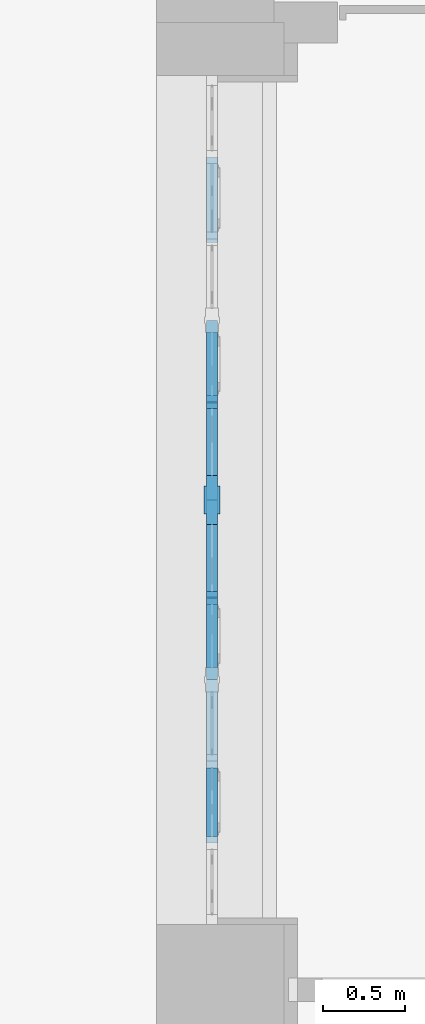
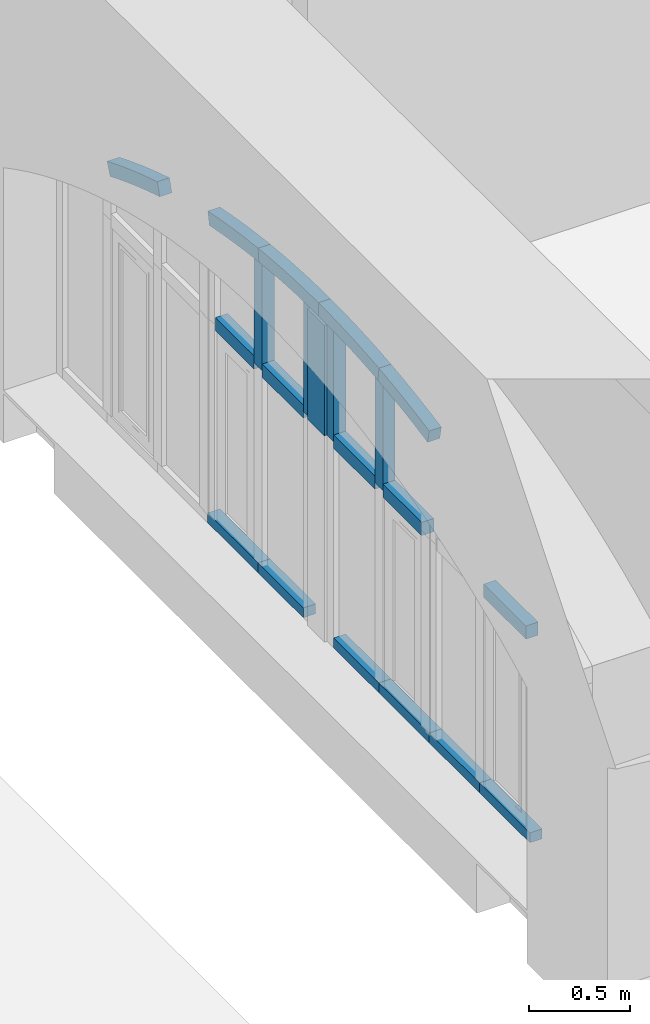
# One storey, part 30 of 88: 19 members, 1 element without a shape of its own.
"""IFC2X3 building model written with IfcOpenShell, lengths in millimetres."""

from ifc_helpers import new_model, entity, si_unit, converted_unit, derived_unit, direction, frame, frame_2d, origin, place, context, subcontext, project, spatial, polyline, circle_curve, parameter, trimmed, segment, composite_curve, rectangle, outline, extrude, faceted_brep, source, transform, mapped, material, type_object, type_shapes, element, aggregate, save


model = new_model("IFC2X3")

# Units and contexts
model_context = context("Model", 3, precision=0.01, world=origin(), true_north=direction((6.123031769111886e-17, 1.0)))
body_context = subcontext(model_context, "Body", "Model", "MODEL_VIEW")
ifc_project = project(units=[si_unit("LENGTHUNIT", "METRE", prefix="MILLI"), si_unit("AREAUNIT", "SQUARE_METRE"), si_unit("VOLUMEUNIT", "CUBIC_METRE"), converted_unit("PLANEANGLEUNIT", "DEGREE", entity("IfcPlaneAngleMeasure", 0.017453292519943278), si_unit("PLANEANGLEUNIT", "RADIAN"), dimensions=[0, 0, 0, 0, 0, 0, 0]), si_unit("MASSUNIT", "GRAM", prefix="KILO"), derived_unit("MASSDENSITYUNIT", [(si_unit("MASSUNIT", "GRAM", prefix="KILO"), 1), (si_unit("LENGTHUNIT", "METRE"), -3)]), derived_unit("IONCONCENTRATIONUNIT", [(si_unit("MASSUNIT", "GRAM", prefix="KILO"), 1), (si_unit("LENGTHUNIT", "METRE"), -3)]), derived_unit("MOMENTOFINERTIAUNIT", [(si_unit("LENGTHUNIT", "METRE"), 4)]), si_unit("TIMEUNIT", "SECOND"), si_unit("FREQUENCYUNIT", "HERTZ"), si_unit("THERMODYNAMICTEMPERATUREUNIT", "DEGREE_CELSIUS"), derived_unit("THERMALTRANSMITTANCEUNIT", [(si_unit("MASSUNIT", "GRAM", prefix="KILO"), 1), (si_unit("THERMODYNAMICTEMPERATUREUNIT", "KELVIN"), -1), (si_unit("TIMEUNIT", "SECOND"), -3)]), derived_unit("THERMALCONDUCTANCEUNIT", [(si_unit("MASSUNIT", "GRAM", prefix="KILO"), 1), (si_unit("THERMODYNAMICTEMPERATUREUNIT", "KELVIN"), -1), (si_unit("TIMEUNIT", "SECOND"), -3), (si_unit("LENGTHUNIT", "METRE"), 1)]), derived_unit("VOLUMETRICFLOWRATEUNIT", [(si_unit("LENGTHUNIT", "METRE", prefix="DECI"), 3), (si_unit("TIMEUNIT", "SECOND"), -1)]), derived_unit("MASSFLOWRATEUNIT", [(si_unit("MASSUNIT", "GRAM", prefix="KILO"), 1), (si_unit("TIMEUNIT", "SECOND"), -1)]), derived_unit("ROTATIONALFREQUENCYUNIT", [(si_unit("TIMEUNIT", "SECOND"), -1)]), si_unit("ELECTRICCURRENTUNIT", "AMPERE"), si_unit("ELECTRICVOLTAGEUNIT", "VOLT"), si_unit("POWERUNIT", "WATT"), si_unit("FORCEUNIT", "NEWTON", prefix="KILO"), si_unit("ILLUMINANCEUNIT", "LUX"), si_unit("LUMINOUSFLUXUNIT", "LUMEN"), si_unit("LUMINOUSINTENSITYUNIT", "CANDELA"), si_unit("ENERGYUNIT", "JOULE"), derived_unit("USERDEFINED", [(si_unit("MASSUNIT", "GRAM", prefix="KILO"), -1), (si_unit("LENGTHUNIT", "METRE"), -2), (si_unit("TIMEUNIT", "SECOND"), 3), (si_unit("LUMINOUSFLUXUNIT", "LUMEN"), 1)]), derived_unit("USERDEFINED", [(si_unit("MASSUNIT", "GRAM", prefix="KILO"), 1), (si_unit("TIMEUNIT", "SECOND"), -3), (si_unit("LENGTHUNIT", "METRE"), 3), (si_unit("ELECTRICCURRENTUNIT", "AMPERE"), -2)]), derived_unit("SOUNDPOWERUNIT", [(si_unit("MASSUNIT", "GRAM", prefix="KILO"), 1), (si_unit("TIMEUNIT", "SECOND"), -3), (si_unit("LENGTHUNIT", "METRE"), 2)]), derived_unit("SOUNDPRESSUREUNIT", [(si_unit("MASSUNIT", "GRAM", prefix="KILO"), 1), (si_unit("LENGTHUNIT", "METRE"), -1), (si_unit("TIMEUNIT", "SECOND"), -2)]), derived_unit("LINEARVELOCITYUNIT", [(si_unit("LENGTHUNIT", "METRE"), 1), (si_unit("TIMEUNIT", "SECOND"), -1)]), si_unit("PRESSUREUNIT", "PASCAL"), derived_unit("USERDEFINED", [(si_unit("MASSUNIT", "GRAM", prefix="KILO"), 1), (si_unit("LENGTHUNIT", "METRE"), -2), (si_unit("TIMEUNIT", "SECOND"), -2)]), derived_unit("LINEARFORCEUNIT", [(si_unit("MASSUNIT", "GRAM", prefix="KILO"), 1), (si_unit("TIMEUNIT", "SECOND"), -2)]), derived_unit("PLANARFORCEUNIT", [(si_unit("MASSUNIT", "GRAM", prefix="KILO"), 1), (si_unit("LENGTHUNIT", "METRE"), -1), (si_unit("TIMEUNIT", "SECOND"), -2)]), derived_unit("SPECIFICHEATCAPACITYUNIT", [(si_unit("THERMODYNAMICTEMPERATUREUNIT", "KELVIN"), -1), (si_unit("LENGTHUNIT", "METRE"), 2), (si_unit("TIMEUNIT", "SECOND"), -2)]), derived_unit("HEATFLUXDENSITYUNIT", [(si_unit("MASSUNIT", "GRAM", prefix="KILO"), 1), (si_unit("TIMEUNIT", "SECOND"), -3)]), derived_unit("HEATINGVALUEUNIT", [(si_unit("LENGTHUNIT", "METRE"), 2), (si_unit("TIMEUNIT", "SECOND"), -2)]), derived_unit("VAPORPERMEABILITYUNIT", [(si_unit("LENGTHUNIT", "METRE"), -1), (si_unit("TIMEUNIT", "SECOND"), 1)]), derived_unit("DYNAMICVISCOSITYUNIT", [(si_unit("MASSUNIT", "GRAM", prefix="KILO"), 1), (si_unit("TIMEUNIT", "SECOND"), -1), (si_unit("LENGTHUNIT", "METRE"), -1)]), derived_unit("THERMALEXPANSIONCOEFFICIENTUNIT", [(si_unit("THERMODYNAMICTEMPERATUREUNIT", "KELVIN"), -1)]), derived_unit("MODULUSOFELASTICITYUNIT", [(si_unit("MASSUNIT", "GRAM", prefix="KILO"), 1), (si_unit("LENGTHUNIT", "METRE"), -1), (si_unit("TIMEUNIT", "SECOND"), -2)]), derived_unit("ISOTHERMALMOISTURECAPACITYUNIT", [(si_unit("MASSUNIT", "GRAM", prefix="KILO"), -1), (si_unit("LENGTHUNIT", "METRE"), 3)]), derived_unit("MOISTUREDIFFUSIVITYUNIT", [(si_unit("TIMEUNIT", "SECOND"), -1), (si_unit("LENGTHUNIT", "METRE"), 2)]), derived_unit("MASSPERLENGTHUNIT", [(si_unit("MASSUNIT", "GRAM", prefix="KILO"), 1), (si_unit("LENGTHUNIT", "METRE"), -1)]), derived_unit("THERMALRESISTANCEUNIT", [(si_unit("MASSUNIT", "GRAM", prefix="KILO"), -1), (si_unit("TIMEUNIT", "SECOND"), 3), (si_unit("THERMODYNAMICTEMPERATUREUNIT", "KELVIN"), 1)]), derived_unit("ACCELERATIONUNIT", [(si_unit("LENGTHUNIT", "METRE"), 1), (si_unit("TIMEUNIT", "SECOND"), -2)]), derived_unit("ANGULARVELOCITYUNIT", [(si_unit("TIMEUNIT", "SECOND"), -1), (si_unit("PLANEANGLEUNIT", "RADIAN"), 1)]), derived_unit("LINEARSTIFFNESSUNIT", [(si_unit("MASSUNIT", "GRAM", prefix="KILO"), 1), (si_unit("TIMEUNIT", "SECOND"), -2)]), derived_unit("WARPINGCONSTANTUNIT", [(si_unit("LENGTHUNIT", "METRE"), 6)]), derived_unit("LINEARMOMENTUNIT", [(si_unit("MASSUNIT", "GRAM", prefix="KILO"), 1), (si_unit("LENGTHUNIT", "METRE"), 1), (si_unit("TIMEUNIT", "SECOND"), -2)]), derived_unit("TORQUEUNIT", [(si_unit("MASSUNIT", "GRAM", prefix="KILO"), 1), (si_unit("LENGTHUNIT", "METRE"), 2), (si_unit("TIMEUNIT", "SECOND"), -2)])], contexts=[model_context])

# Site, building, storey
site_placement = place(None, origin())
site = spatial("IfcSite", under=ifc_project, at=site_placement, Name="Default", CompositionType="ELEMENT")
building_placement = place(site_placement, origin())
building = spatial("IfcBuilding", under=site, at=building_placement, Name="Eesti Rahvusraamatukogu hoone renoveerimise projekteerimistööd", CompositionType="ELEMENT")
storey_placement = place(building_placement, origin())
storey = spatial("IfcBuildingStorey", under=building, at=storey_placement, Name="1. korrus", CompositionType="ELEMENT", Elevation=0.0)

# Curtain wall, members
curtain_wall_type = type_object("IfcCurtainWallType", Name="Curtain Wall:Ak-02", PredefinedType="NOTDEFINED")
curtain_wall_placement = place(storey_placement, origin())
curtain_wall = element("IfcCurtainWall", 1, at=curtain_wall_placement, inside=storey, type_object=curtain_wall_type, Name="Curtain Wall:Ak-02", ObjectType="Curtain Wall:Ak-02")
ifc_material = material(Name="LUMION_dark steel window frames")
member_type_1 = type_object("IfcMemberType", Name="Rectangular Mullion:NEW 80x70mm", PredefinedType="MULLION", material=ifc_material)
shared_shape_1 = source(origin(), body_context, "Body", "SweptSolid", [
    extrude(outline(composite_curve([segment(polyline([(-52.664386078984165, -263.1530214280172), (27.33561392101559, -263.1530214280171)]), True, "CONTINUOUS"), segment(trimmed(circle_curve(frame_2d((5468.051293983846, -263.1530214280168), x_axis=(-0.9953785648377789, 0.09602870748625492)), 5440.715680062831), [parameter(3.5622212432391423e-13)], [parameter(5.510531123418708)], True, "PARAMETER"), False, "CONTINUOUS"), segment(polyline([(52.479528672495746, 259.31187312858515), (-27.150756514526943, 266.9941697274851)]), True, "CONTINUOUS"), segment(trimmed(circle_curve(frame_2d((5468.051293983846, -263.1530214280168), x_axis=(-0.9953785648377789, 0.09602870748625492)), 5520.715680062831), [parameter(3.5622212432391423e-13)], [parameter(5.510531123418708)], True, "PARAMETER"), True, "CONTINUOUS")], self_intersect=False)), frame((-52.66438607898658, -35.0, -263.1530214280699), z_axis=(0.0, 1.0, 0.0), x_axis=(-0.9953785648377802, 0.0, 0.09602870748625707)), (0.0, 0.0, 1.0), 69.99999999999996),
])
type_shapes(member_type_1, [shared_shape_1])
member_1_placement = place(curtain_wall_placement, frame((-36440.0, 22990.0, 3733.633310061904), z_axis=(0.0, -0.9570819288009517, 0.2898174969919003), x_axis=(0.0, 0.2898174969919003, 0.9570819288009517)))
member_1 = element("IfcMember", 2, at=member_1_placement, type_object=member_type_1, material=ifc_material, Name="Rectangular Mullion:NEW 80x70mm", ObjectType="Rectangular Mullion:NEW 80x70mm", context=body_context, shape_type="MappedRepresentation", body=[
    mapped(shared_shape_1, transform((0.0, 0.0, 0.0), scale=1.0)),
])
member_type_2 = type_object("IfcMemberType", Name="Rectangular Mullion:NEW 80x70mm", PredefinedType="MULLION", material=ifc_material)
shared_shape_2 = source(origin(), body_context, "Body", "SweptSolid", [
    extrude(outline(composite_curve([segment(polyline([(-51.51245202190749, -250.9261639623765), (28.487547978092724, -250.92616396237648)]), True, "CONTINUOUS"), segment(trimmed(circle_curve(frame_2d((5469.203228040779, -250.92616396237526), x_axis=(-0.99579892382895, 0.0915669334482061)), 5440.715680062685), [parameter(3.5622212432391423e-13)], [parameter(5.2537580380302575)], True, "PARAMETER"), False, "CONTINUOUS"), segment(polyline([(51.344408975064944, 247.26348662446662), (-28.319504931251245, 254.58884130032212)]), True, "CONTINUOUS"), segment(trimmed(circle_curve(frame_2d((5469.203228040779, -250.92616396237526), x_axis=(-0.99579892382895, 0.0915669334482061)), 5520.715680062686), [parameter(3.5622212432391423e-13)], [parameter(5.2537580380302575)], True, "PARAMETER"), True, "CONTINUOUS")], self_intersect=False)), frame((-51.51245202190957, -35.0, -250.92616396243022), z_axis=(0.0, 1.0, 0.0), x_axis=(-0.995798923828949, 0.0, 0.09156693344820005)), (0.0, 0.0, 1.0), 70.00000000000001),
])
type_shapes(member_type_2, [shared_shape_2])
member_2_placement = place(curtain_wall_placement, frame((-36440.0, 21990.0, 3937.870459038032), z_axis=(0.0, -0.9940766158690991, 0.10868156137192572), x_axis=(0.0, 0.10868156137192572, 0.9940766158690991)))
member_2 = element("IfcMember", 3, at=member_2_placement, type_object=member_type_2, material=ifc_material, Name="Rectangular Mullion:NEW 80x70mm", ObjectType="Rectangular Mullion:NEW 80x70mm", context=body_context, shape_type="MappedRepresentation", body=[
    mapped(shared_shape_2, transform((0.0, 0.0, 0.0), scale=1.0)),
])
member_type_3 = type_object("IfcMemberType", Name="Rectangular Mullion:NEW 80x70mm", PredefinedType="MULLION", material=ifc_material)
shared_shape_3 = source(origin(), body_context, "Body", "SweptSolid", [
    extrude(outline(composite_curve([segment(polyline([(-56.23219214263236, -297.82636877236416), (23.767807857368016, -297.82636877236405)]), True, "CONTINUOUS"), segment(trimmed(circle_curve(frame_2d((5464.483487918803, -297.82636877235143), x_axis=(-0.9940766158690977, 0.10868156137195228)), 5440.715680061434), [parameter(3.053332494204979e-13)], [parameter(6.2393189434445)], True, "PARAMETER"), False, "CONTINUOUS"), segment(polyline([(55.99525677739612, 293.47910631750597), (-23.53087249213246, 302.1736312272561)]), True, "CONTINUOUS"), segment(trimmed(circle_curve(frame_2d((5464.483487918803, -297.82636877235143), x_axis=(-0.9940766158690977, 0.10868156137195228)), 5520.715680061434), [parameter(3.5622212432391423e-13)], [parameter(6.2393189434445)], True, "PARAMETER"), True, "CONTINUOUS")], self_intersect=False)), frame((-56.23219214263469, -35.0, -297.82636877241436), z_axis=(0.0, 1.0, 0.0), x_axis=(-0.9940766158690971, 0.0, 0.10868156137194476)), (0.0, 0.0, 1.0), 69.99999999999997),
])
type_shapes(member_type_3, [shared_shape_3])
member_3_placement = place(curtain_wall_placement, frame((-36440.0, 20790.0, 3937.870459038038), z_axis=(0.0, -0.9940766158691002, -0.10868156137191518), x_axis=(0.0, -0.10868156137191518, 0.9940766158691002)))
member_3 = element("IfcMember", 4, at=member_3_placement, type_object=member_type_3, material=ifc_material, Name="Rectangular Mullion:NEW 80x70mm", ObjectType="Rectangular Mullion:NEW 80x70mm", context=body_context, shape_type="MappedRepresentation", body=[
    mapped(shared_shape_3, transform((0.0, 0.0, 0.0), scale=1.0)),
])
member_type_4 = type_object("IfcMemberType", Name="Rectangular Mullion:NEW 80x70mm", PredefinedType="MULLION", material=ifc_material)
shared_shape_4 = source(origin(), body_context, "Body", "SweptSolid", [
    extrude(outline(composite_curve([segment(polyline([(-51.51245202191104, -250.9261639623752), (28.487547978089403, -250.92616396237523)]), True, "CONTINUOUS"), segment(trimmed(circle_curve(frame_2d((5469.203228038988, -250.9261639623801), x_axis=(-0.9957989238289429, 0.09156693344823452)), 5440.715680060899), [parameter(3.5622212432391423e-13)], [parameter(5.253758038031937)], True, "PARAMETER"), False, "CONTINUOUS"), segment(polyline([(51.34440897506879, 247.26348662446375), (-28.319504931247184, 254.5888413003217)]), True, "CONTINUOUS"), segment(trimmed(circle_curve(frame_2d((5469.203228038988, -250.9261639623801), x_axis=(-0.9957989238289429, 0.09156693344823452)), 5520.715680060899), [parameter(3.5622212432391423e-13)], [parameter(5.253758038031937)], True, "PARAMETER"), True, "CONTINUOUS")], self_intersect=False)), frame((-51.512452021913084, -35.0, -250.926163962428), z_axis=(0.0, 1.0, 0.0), x_axis=(-0.9957989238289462, 0.0, 0.09156693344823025)), (0.0, 0.0, 1.0), 70.00000000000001),
])
type_shapes(member_type_4, [shared_shape_4])
member_4_placement = place(curtain_wall_placement, frame((-36440.0, 20290.0, 3859.874732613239), z_axis=(0.0, -0.9799487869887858, -0.1992495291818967), x_axis=(0.0, -0.1992495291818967, 0.9799487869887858)))
member_4 = element("IfcMember", 5, at=member_4_placement, type_object=member_type_4, material=ifc_material, Name="Rectangular Mullion:NEW 80x70mm", ObjectType="Rectangular Mullion:NEW 80x70mm", context=body_context, shape_type="MappedRepresentation", body=[
    mapped(shared_shape_4, transform((0.0, 0.0, 0.0), scale=1.0)),
])
member_type_5 = type_object("IfcMemberType", Name="Rectangular Mullion:NEW 80x70mm", PredefinedType="MULLION", material=ifc_material)
shared_shape_5 = source(origin(), body_context, "Body", "SweptSolid", [
    extrude(outline(composite_curve([segment(polyline([(-56.232192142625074, -297.82636877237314), (23.767807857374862, -297.82636877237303)]), True, "CONTINUOUS"), segment(trimmed(circle_curve(frame_2d((5464.483487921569, -297.8263687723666), x_axis=(-0.9940766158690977, 0.10868156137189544)), 5440.715680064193), [parameter(3.5622212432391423e-13)], [parameter(6.239318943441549)], True, "PARAMETER"), False, "CONTINUOUS"), segment(polyline([(55.99525677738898, 293.47910631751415), (-23.53087249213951, 302.1736312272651)]), True, "CONTINUOUS"), segment(trimmed(circle_curve(frame_2d((5464.483487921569, -297.8263687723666), x_axis=(-0.9940766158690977, 0.10868156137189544)), 5520.715680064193), [parameter(3.5622212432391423e-13)], [parameter(6.239318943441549)], True, "PARAMETER"), True, "CONTINUOUS")], self_intersect=False)), frame((-56.232192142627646, -35.0, -297.8263687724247), z_axis=(0.0, 1.0, 0.0), x_axis=(-0.9940766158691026, 0.0, 0.1086815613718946)), (0.0, 0.0, 1.0), 69.99999999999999),
])
type_shapes(member_type_5, [shared_shape_5])
member_5_placement = place(curtain_wall_placement, frame((-36440.0, 21390.0, 3970.571778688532), z_axis=(0.0, -1.0, 0.0), x_axis=(0.0, 0.0, 1.0)))
member_5 = element("IfcMember", 6, at=member_5_placement, type_object=member_type_5, material=ifc_material, Name="Rectangular Mullion:NEW 80x70mm", ObjectType="Rectangular Mullion:NEW 80x70mm", context=body_context, shape_type="MappedRepresentation", body=[
    mapped(shared_shape_5, transform((0.0, 0.0, 0.0), scale=1.0)),
])
member_type_6 = type_object("IfcMemberType", Name="Rectangular Mullion:NEW 80x70mm", PredefinedType="MULLION", material=ifc_material)
shared_shape_6 = source(origin(), body_context, "Body", "SweptSolid", [
    extrude(outline(composite_curve([segment(polyline([(-382.563636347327, -38.261095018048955), (259.11166761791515, -38.261095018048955)]), True, "CONTINUOUS"), segment(trimmed(circle_curve(frame_2d((-5152.707537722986, -598.2610950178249), x_axis=(1.0, 0.0)), 5440.715680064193), [parameter(5.907781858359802)], [parameter(6.239318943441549)], True, "PARAMETER"), True, "CONTINUOUS"), segment(trimmed(circle_curve(frame_2d((-5152.707537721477, -598.2610950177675), x_axis=(0.994076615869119, 0.10868156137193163)), 5440.715680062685), [parameter(0.0)], [parameter(0.5161152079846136)], True, "PARAMETER"), True, "CONTINUOUS"), segment(polyline([(250.23491165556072, 41.73890498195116), (-382.563636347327, 41.738904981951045)]), True, "CONTINUOUS"), segment(polyline([(-382.563636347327, 41.738904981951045), (-382.563636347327, -38.261095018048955)]), True, "CONTINUOUS")], self_intersect=False)), frame((1.7389049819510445, -35.0, -382.563636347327), z_axis=(0.0, 1.0, 0.0), x_axis=(0.0, 0.0, -1.0)), (0.0, 0.0, 1.0), 69.99999999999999),
])
type_shapes(member_type_6, [shared_shape_6])
member_6_placement = place(curtain_wall_placement, frame((-36440.0, 21990.0, 3220.0), z_axis=(0.0, 0.0, -1.0), x_axis=(0.0, -1.0, 0.0)))
member_6 = element("IfcMember", 7, at=member_6_placement, type_object=member_type_6, material=ifc_material, Name="Rectangular Mullion:NEW 80x70mm", ObjectType="Rectangular Mullion:NEW 80x70mm", context=body_context, shape_type="MappedRepresentation", body=[
    mapped(shared_shape_6, transform((0.0, 0.0, 0.0), scale=1.0)),
])
member_type_7 = type_object("IfcMemberType", Name="Rectangular Mullion:NEW 300x100mm", PredefinedType="MULLION", material=ifc_material)
shared_shape_7 = source(origin(), body_context, "Body", "Brep", [
    faceted_brep([(-85.0, -50.0, 0.0), (85.0, -50.0, 0.0), (85.0, -35.0, 0.0), (150.0, -35.0, 0.0), (150.0, 35.0, 0.0), (85.0, 35.0, 0.0), (85.0, 50.0, 0.0), (-85.0, 50.0, 0.0), (-85.0, 35.0, 0.0), (-150.0, 35.0, 0.0), (-150.0, -35.0, 0.0), (-85.0, -35.0, 0.0), (-85.0, 35.0, -669.9077630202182), (-117.50209737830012, 35.0, -669.3027955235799), (-150.0, 35.0, -668.5036429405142), (150.0, 35.0, -668.5036429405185), (117.50209737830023, 35.0, -669.3027955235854), (85.0, 35.0, -669.9077630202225), (-150.0, -35.0, -668.5036429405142), (-117.5020973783, -35.0, -669.3027955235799), (-85.0, -35.0, -669.9077630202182), (85.0, -35.0, -669.9077630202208), (117.50209737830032, -35.0, -669.3027955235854), (150.0, -35.0, -668.5036429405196), (-85.0, -50.0, -669.9077630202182), (-85.0, 50.0, -669.9077630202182), (-42.50064842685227, -50.0, -670.4057773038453), (0.0, -50.0, -670.5717786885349), (42.500648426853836, -50.0, -670.4057773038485), (85.0, -50.0, -669.9077630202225), (85.0, 50.0, -669.9077630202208), (42.500648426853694, 50.0, -670.4057773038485), (0.0, 50.0, -670.5717786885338), (-42.50064842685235, 50.0, -670.4057773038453)], [[[0, 1, 2, 3, 4, 5, 6, 7, 8, 9, 10, 11]], [[9, 8, 12, 13, 14]], [[5, 4, 15, 16, 17]], [[10, 9, 14, 18]], [[11, 10, 18, 19, 20]], [[3, 2, 21, 22, 23]], [[0, 11, 20, 24]], [[8, 7, 25, 12]], [[1, 0, 24, 26, 27, 28, 29]], [[2, 1, 29, 21]], [[6, 5, 17, 30]], [[4, 3, 23, 15]], [[7, 6, 30, 31, 32, 33, 25]], [[33, 32, 27, 26]], [[20, 12, 25, 33, 26, 24]], [[20, 19, 13, 12]], [[19, 18, 14, 13]], [[15, 23, 22, 16]], [[16, 22, 21, 17]], [[21, 29, 28, 31, 30, 17]], [[31, 28, 27, 32]]]),
])
type_shapes(member_type_7, [shared_shape_7])
member_7_placement = place(curtain_wall_placement, frame((-36440.0, 21390.0, 3220.0), z_axis=(0.0, 0.0, -1.0), x_axis=(0.0, -1.0, 0.0)))
member_7 = element("IfcMember", 8, at=member_7_placement, type_object=member_type_7, material=ifc_material, Name="Rectangular Mullion:NEW 300x100mm", ObjectType="Rectangular Mullion:NEW 300x100mm", context=body_context, shape_type="MappedRepresentation", body=[
    mapped(shared_shape_7, transform((0.0, 0.0, 0.0), scale=1.0)),
])
member_type_8 = type_object("IfcMemberType", Name="Rectangular Mullion:NEW 80x70mm", PredefinedType="MULLION", material=ifc_material)
shared_shape_8 = source(origin(), body_context, "Body", "SweptSolid", [
    extrude(outline(composite_curve([segment(polyline([(-382.56363634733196, -41.73890498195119), (250.23491165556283, -41.73890498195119)]), True, "CONTINUOUS"), segment(trimmed(circle_curve(frame_2d((-5152.707537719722, 598.2610950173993), x_axis=(0.9799487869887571, -0.19924952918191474)), 5440.715680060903), [parameter(4.737642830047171)], [parameter(5.253758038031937)], True, "PARAMETER"), True, "CONTINUOUS"), segment(trimmed(circle_curve(frame_2d((-5152.70753772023, 598.2610950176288), x_axis=(0.994076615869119, -0.10868156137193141)), 5440.715680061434), [parameter(0.0)], [parameter(0.33153708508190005)], True, "PARAMETER"), True, "CONTINUOUS"), segment(polyline([(259.11166761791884, 38.26109501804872), (-382.56363634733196, 38.26109501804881)]), True, "CONTINUOUS"), segment(polyline([(-382.56363634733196, 38.26109501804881), (-382.56363634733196, -41.73890498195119)]), True, "CONTINUOUS")], self_intersect=False)), frame((-1.7389049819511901, -35.0, -382.56363634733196), z_axis=(0.0, 1.0, 0.0), x_axis=(0.0, 0.0, -1.0)), (0.0, 0.0, 1.0), 70.00000000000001),
])
type_shapes(member_type_8, [shared_shape_8])
member_8_placement = place(curtain_wall_placement, frame((-36440.0, 20790.0, 3220.0), z_axis=(0.0, 0.0, -1.0), x_axis=(0.0, -1.0, 0.0)))
member_8 = element("IfcMember", 9, at=member_8_placement, type_object=member_type_8, material=ifc_material, Name="Rectangular Mullion:NEW 80x70mm", ObjectType="Rectangular Mullion:NEW 80x70mm", context=body_context, shape_type="MappedRepresentation", body=[
    mapped(shared_shape_8, transform((0.0, 0.0, 0.0), scale=1.0)),
])
member_type_9 = type_object("IfcMemberType", Name="Rectangular Mullion:NEW 80x70mm", PredefinedType="MULLION", material=ifc_material)
shared_shape_9 = source(origin(), body_context, "Body", "SweptSolid", [
    extrude(rectangle(XDim=80.0, YDim=70.0, at=frame_2d((0.0, -3.552713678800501e-15), x_axis=(1.0, 0.0))), frame((0.0, 0.0, -420.0), z_axis=(0.0, 0.0, 1.0), x_axis=(-1.0, 0.0, 0.0)), (0.0, 0.0, 1.0), 419.999999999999),
])
type_shapes(member_type_9, [shared_shape_9])
member_9_placement = place(curtain_wall_placement, frame((-36440.0, 19330.0, 3220.0), z_axis=(0.0, -1.0, 0.0), x_axis=(0.0, 0.0, 1.0)))
member_9 = element("IfcMember", 10, at=member_9_placement, type_object=member_type_9, material=ifc_material, Name="Rectangular Mullion:NEW 80x70mm", ObjectType="Rectangular Mullion:NEW 80x70mm", context=body_context, shape_type="MappedRepresentation", body=[
    mapped(shared_shape_9, transform((0.0, 0.0, 0.0), scale=1.0)),
])
member_type_10 = type_object("IfcMemberType", Name="Rectangular Mullion:NEW 80x70mm", PredefinedType="MULLION", material=ifc_material)
shared_shape_10 = source(origin(), body_context, "Body", "SweptSolid", [
    extrude(rectangle(XDim=80.0, YDim=70.0, at=frame_2d((0.0, -3.552713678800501e-15), x_axis=(1.0, 0.0))), frame((0.0, 0.0, -385.0), z_axis=(0.0, 0.0, 1.0), x_axis=(-1.0, 0.0, 0.0)), (0.0, 0.0, 1.0), 384.99999999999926),
])
type_shapes(member_type_10, [shared_shape_10])
member_10_placement = place(curtain_wall_placement, frame((-36440.0, 22030.0, 3220.0), z_axis=(0.0, -1.0, 0.0), x_axis=(0.0, 0.0, 1.0)))
member_10 = element("IfcMember", 11, at=member_10_placement, type_object=member_type_10, material=ifc_material, Name="Rectangular Mullion:NEW 80x70mm", ObjectType="Rectangular Mullion:NEW 80x70mm", context=body_context, shape_type="MappedRepresentation", body=[
    mapped(shared_shape_10, transform((0.0, 0.0, 0.0), scale=1.0)),
])
member_11_placement = place(curtain_wall_placement, frame((-36440.0, 20365.0, 3220.0), z_axis=(0.0, -1.0, 0.0), x_axis=(0.0, 0.0, 1.0)))
member_11 = element("IfcMember", 12, at=member_11_placement, type_object=member_type_10, material=ifc_material, Name="Rectangular Mullion:NEW 80x70mm", ObjectType="Rectangular Mullion:NEW 80x70mm", context=body_context, shape_type="MappedRepresentation", body=[
    mapped(shared_shape_10, transform((0.0, 0.0, 0.0), scale=1.0)),
])
member_type_11 = type_object("IfcMemberType", Name="Rectangular Mullion:NEW 80x70mm", PredefinedType="MULLION", material=ifc_material)
shared_shape_11 = source(origin(), body_context, "Body", "SweptSolid", [
    extrude(rectangle(XDim=80.0, YDim=70.0, at=frame_2d((0.0, -3.552713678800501e-15), x_axis=(1.0, 0.0))), frame((0.0, 0.0, -410.0), z_axis=(0.0, 0.0, 1.0), x_axis=(-1.0, 0.0, 0.0)), (0.0, 0.0, 1.0), 409.9999999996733),
])
type_shapes(member_type_11, [shared_shape_11])
member_12_placement = place(curtain_wall_placement, frame((-36440.0, 21540.0, 3220.0), z_axis=(0.0, -1.0, 0.0), x_axis=(0.0, 0.0, 1.0)))
member_12 = element("IfcMember", 13, at=member_12_placement, type_object=member_type_11, material=ifc_material, Name="Rectangular Mullion:NEW 80x70mm", ObjectType="Rectangular Mullion:NEW 80x70mm", context=body_context, shape_type="MappedRepresentation", body=[
    mapped(shared_shape_11, transform((0.0, 0.0, 0.0), scale=1.0)),
])
member_13_placement = place(curtain_wall_placement, frame((-36440.0, 20830.0, 3220.0), z_axis=(0.0, -1.0, 0.0), x_axis=(0.0, 0.0, 1.0)))
member_13 = element("IfcMember", 14, at=member_13_placement, type_object=member_type_11, material=ifc_material, Name="Rectangular Mullion:NEW 80x70mm", ObjectType="Rectangular Mullion:NEW 80x70mm", context=body_context, shape_type="MappedRepresentation", body=[
    mapped(shared_shape_11, transform((0.0, 0.0, 0.0), scale=1.0)),
])
member_type_12 = type_object("IfcMemberType", Name="Rectangular Mullion:NEW 60x70mm", PredefinedType="MULLION", material=ifc_material)
shared_shape_12 = source(origin(), body_context, "Body", "SweptSolid", [
    extrude(rectangle(XDim=60.0, YDim=70.0, at=frame_2d((0.0, 3.552713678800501e-15), x_axis=(1.0, 0.0))), frame((-30.0, 0.0, -500.0), z_axis=(0.0, 0.0, 1.0), x_axis=(-1.0, 0.0, 0.0)), (0.0, 0.0, 1.0), 499.999999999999),
])
type_shapes(member_type_12, [shared_shape_12])
member_14_placement = place(curtain_wall_placement, frame((-36440.0, 22490.0, 1970.0), z_axis=(0.0, 1.0, 0.0), x_axis=(0.0, 0.0, -1.0)))
member_14 = element("IfcMember", 15, at=member_14_placement, type_object=member_type_12, material=ifc_material, Name="Rectangular Mullion:NEW 60x70mm", ObjectType="Rectangular Mullion:NEW 60x70mm", context=body_context, shape_type="MappedRepresentation", body=[
    mapped(shared_shape_12, transform((0.0, 0.0, 0.0), scale=1.0)),
])
member_15_placement = place(curtain_wall_placement, frame((-36440.0, 20790.0, 1970.0), z_axis=(0.0, 1.0, 0.0), x_axis=(0.0, 0.0, -1.0)))
member_15 = element("IfcMember", 16, at=member_15_placement, type_object=member_type_12, material=ifc_material, Name="Rectangular Mullion:NEW 60x70mm", ObjectType="Rectangular Mullion:NEW 60x70mm", context=body_context, shape_type="MappedRepresentation", body=[
    mapped(shared_shape_12, transform((0.0, 0.0, 0.0), scale=1.0)),
])
member_16_placement = place(curtain_wall_placement, frame((-36440.0, 20290.0, 1970.0), z_axis=(0.0, 1.0, 0.0), x_axis=(0.0, 0.0, -1.0)))
member_16 = element("IfcMember", 17, at=member_16_placement, type_object=member_type_12, material=ifc_material, Name="Rectangular Mullion:NEW 60x70mm", ObjectType="Rectangular Mullion:NEW 60x70mm", context=body_context, shape_type="MappedRepresentation", body=[
    mapped(shared_shape_12, transform((0.0, 0.0, 0.0), scale=1.0)),
])
member_17_placement = place(curtain_wall_placement, frame((-36440.0, 19790.0, 1970.0), z_axis=(0.0, 1.0, 0.0), x_axis=(0.0, 0.0, -1.0)))
member_17 = element("IfcMember", 18, at=member_17_placement, type_object=member_type_12, material=ifc_material, Name="Rectangular Mullion:NEW 60x70mm", ObjectType="Rectangular Mullion:NEW 60x70mm", context=body_context, shape_type="MappedRepresentation", body=[
    mapped(shared_shape_12, transform((0.0, 0.0, 0.0), scale=1.0)),
])
member_type_13 = type_object("IfcMemberType", Name="Rectangular Mullion:NEW 60x70mm", PredefinedType="MULLION", material=ifc_material)
shared_shape_13 = source(origin(), body_context, "Body", "SweptSolid", [
    extrude(rectangle(XDim=60.0, YDim=70.0, at=frame_2d((0.0, 3.552713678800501e-15), x_axis=(1.0, 0.0))), frame((-30.0, 0.0, -450.0), z_axis=(0.0, 0.0, 1.0), x_axis=(-1.0, 0.0, 0.0)), (0.0, 0.0, 1.0), 449.99999999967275),
])
type_shapes(member_type_13, [shared_shape_13])
member_18_placement = place(curtain_wall_placement, frame((-36440.0, 21990.0, 1970.0), z_axis=(0.0, 1.0, 0.0), x_axis=(0.0, 0.0, -1.0)))
member_18 = element("IfcMember", 19, at=member_18_placement, type_object=member_type_13, material=ifc_material, Name="Rectangular Mullion:NEW 60x70mm", ObjectType="Rectangular Mullion:NEW 60x70mm", context=body_context, shape_type="MappedRepresentation", body=[
    mapped(shared_shape_13, transform((0.0, 0.0, 0.0), scale=1.0)),
])
member_type_14 = type_object("IfcMemberType", Name="Rectangular Mullion:NEW 60x70mm", PredefinedType="MULLION", material=ifc_material)
shared_shape_14 = source(origin(), body_context, "Body", "SweptSolid", [
    extrude(rectangle(XDim=60.0, YDim=70.0, at=frame_2d((0.0, 3.552713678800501e-15), x_axis=(1.0, 0.0))), frame((-30.0, 0.0, -450.0), z_axis=(0.0, 0.0, 1.0), x_axis=(-1.0, 0.0, 0.0)), (0.0, 0.0, 1.0), 449.9999999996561),
])
type_shapes(member_type_14, [shared_shape_14])
member_19_placement = place(curtain_wall_placement, frame((-36440.0, 21240.0, 1970.0), z_axis=(0.0, 1.0, 0.0), x_axis=(0.0, 0.0, -1.0)))
member_19 = element("IfcMember", 20, at=member_19_placement, type_object=member_type_14, material=ifc_material, Name="Rectangular Mullion:NEW 60x70mm", ObjectType="Rectangular Mullion:NEW 60x70mm", context=body_context, shape_type="MappedRepresentation", body=[
    mapped(shared_shape_14, transform((0.0, 0.0, 0.0), scale=1.0)),
])
aggregate(curtain_wall, [member_1, member_2, member_3, member_4, member_5, member_6, member_7, member_8, member_10, member_12, member_11, member_9, member_13, member_14, member_18, member_15, member_16, member_17, member_19])

save(model, "model.ifc")
